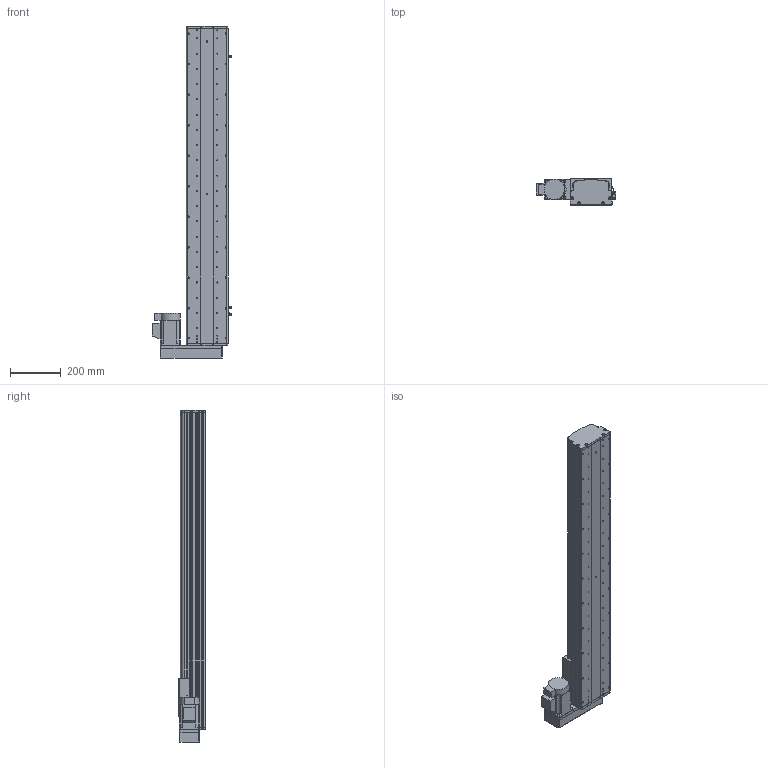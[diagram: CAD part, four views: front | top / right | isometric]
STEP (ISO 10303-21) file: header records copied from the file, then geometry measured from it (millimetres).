
FILE_DESCRIPTION (( 'STEP AP214' ), '1' );
FILE_NAME ('KSD165S-S1000-MR-CM.STEP', '2017-10-18T00:59:07', ( '微软用户' ), ( '微软中国' ), 'SwSTEP 2.0', 'SolidWorks 2014', '' );
FILE_SCHEMA (( 'AUTOMOTIVE_DESIGN' ));
Length unit declared in the file: millimetre
Products named in the file (16): U倰嫖萇EEㄜSX672; KSD165耀郪-綴傷啣1; KSD165模组-丝杆滑动座-最新版; KSD165S-S1000-MR-CM; 拸秶雄ん750W侜督萇儂; KSD165模组-丝杆上下左右折前端板; HTPA26S5M250-A-H8丝杆用(内径14）; HTPA26S5M250-A-H8 750W萇儂蚚; 165宽模组马达安装板连板左右折丝杆; 165宽模组保护罩左右折; KSD165模组-防尘盖1-1000行程-最新版; KSD165模组底板-1000行程-最新; KSD165耀郪-佪裝-滅袉菜-3 -; KSD165耀郪-佪裝-滅袉菜-1; 覜茼え68遵圉猾敕; U倰嫖萇假蚾璃
Assembly tree (19 placements, depth 2):
  KSD165S-S1000-MR-CM
    KSD165模组-丝杆滑动座-最新版
    KSD165耀郪-綴傷啣1
    U倰嫖萇EEㄜSX672  x3
    U倰嫖萇假蚾璃  x3
    覜茼え68遵圉猾敕
    KSD165耀郪-佪裝-滅袉菜-1
    KSD165耀郪-佪裝-滅袉菜-3 -
    KSD165模组底板-1000行程-最新
    KSD165模组-防尘盖1-1000行程-最新版
    165宽模组保护罩左右折
    165宽模组马达安装板连板左右折丝杆
    HTPA26S5M250-A-H8 750W萇儂蚚
    HTPA26S5M250-A-H8丝杆用(内径14）
    KSD165模组-丝杆上下左右折前端板
    拸秶雄ん750W侜督萇儂
Bounding box: 311.2 x 104 x 1305.5 mm (x, y, z)
Volume: 7869345.9 mm3; surface area: 1828999.9 mm2
Topology: 20 solids, 20 shells, 1863 faces, 5294 edges, 3463 vertices
Faces by surface type: cylinder 1215, plane 547, cone 101
Entity records: 61563 total; most frequent: CARTESIAN_POINT 12847, DIRECTION 9905, ORIENTED_EDGE 9276, EDGE_CURVE 4638, AXIS2_PLACEMENT_3D 3889, VERTEX_POINT 3055, CIRCLE 2224, VECTOR 2127
